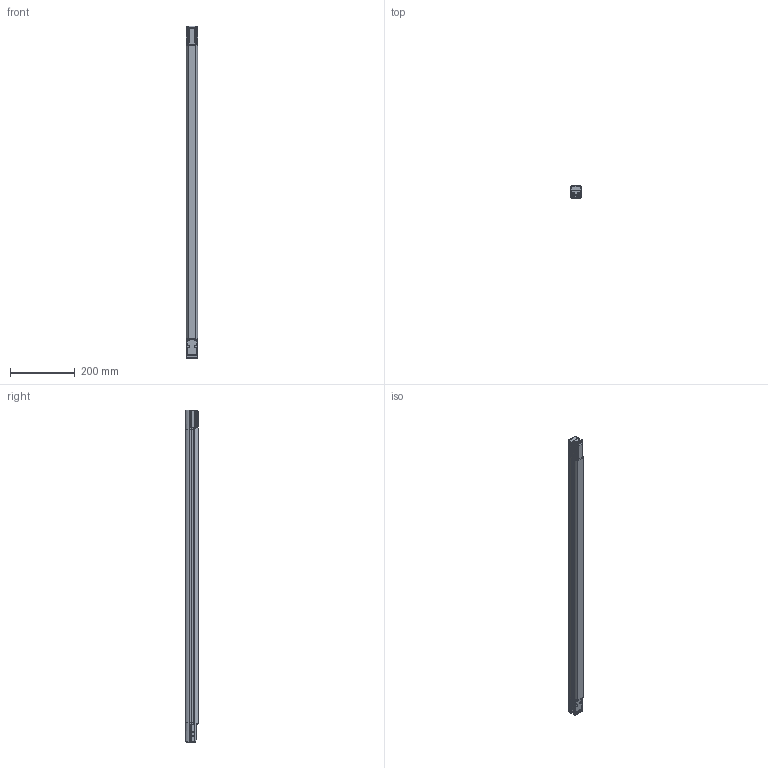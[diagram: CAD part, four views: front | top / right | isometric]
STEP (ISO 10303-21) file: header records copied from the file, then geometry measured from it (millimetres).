
FILE_DESCRIPTION(/* description */ (''),/* implementation_level */ '2;1');
FILE_NAME(/* name */ 'AP046317_00-DSD-1133 SH4-3-0800 ACTIVE.stp',/* time_stamp */ '2023-06-14T09:47:07+02:00',/* author */ (''),/* organization */ (''),/* preprocessor_version */ 'ST-DEVELOPER v16.701',/* originating_system */ 'SIEMENS PLM Software NX 1946',/* authorisation */ '');
FILE_SCHEMA (('AUTOMOTIVE_DESIGN { 1 0 10303 214 3 1 1 1 }'));
Length unit declared in the file: millimetre
Products named in the file (1): FGut3968831C8g49
Bounding box: 35.08 x 40 x 1026 mm (x, y, z)
Volume: 1195502.8 mm3; surface area: 242934.7 mm2
Topology: 6 solids, 11 shells, 891 faces, 2381 edges, 1502 vertices
Faces by surface type: plane 363, cylinder 315, bspline 92, cone 55, extrusion 24, sphere 22, torus 20
Full cylindrical faces by diameter (mm): 2.013 x4, 2.2 x4, 3 x4, 4.37 x4, 5 x8
Entity records: 35021 total; most frequent: CARTESIAN_POINT 13676, ORIENTED_EDGE 4482, DIRECTION 3861, EDGE_CURVE 2241, VERTEX_POINT 1468, AXIS2_PLACEMENT_3D 1343, VECTOR 1175, LINE 1151
